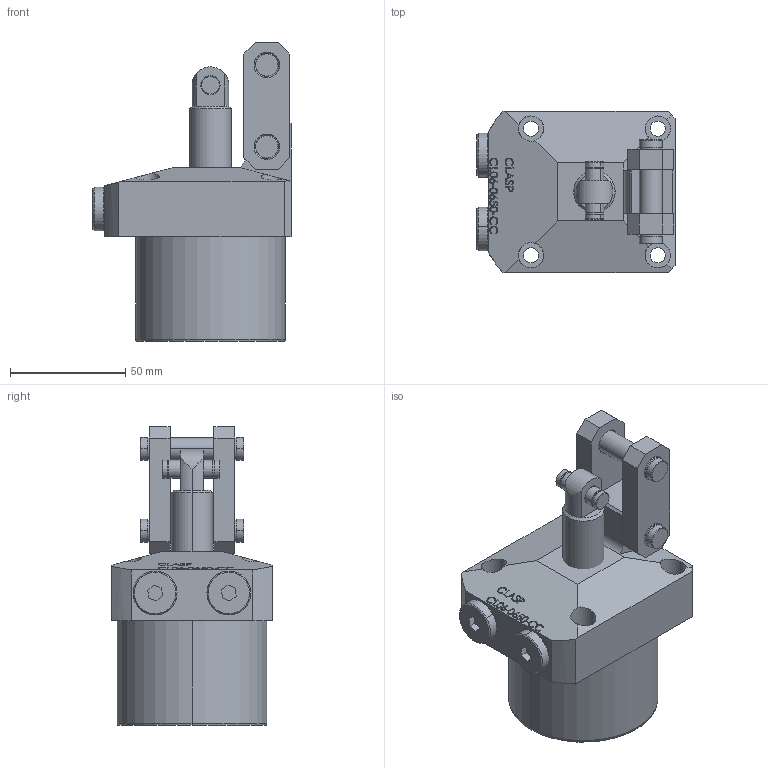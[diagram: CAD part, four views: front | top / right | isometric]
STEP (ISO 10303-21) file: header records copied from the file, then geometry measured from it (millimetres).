
FILE_DESCRIPTION (( 'STEP AP203' ), '1' );
FILE_NAME ('CL06-0650cc.STEP', '2022-07-05T17:30:51', ( '' ), ( '' ), 'SwSTEP 2.0', 'SolidWorks 2017', '' );
FILE_SCHEMA (( 'CONFIG_CONTROL_DESIGN' ));
Length unit declared in the file: millimetre
Products named in the file (7): CL06-0650 Part5 cc; CL06-0650 Part6 cc; CL06-0650 Part7 cc; CL06-0650cc; CL06-0650 Part1 cc; CL06-0650 Part3 cc; CL06-0650 Part2 cc
Assembly tree (9 placements, depth 2):
  CL06-0650cc
    CL06-0650 Part1 cc
    CL06-0650 Part3 cc
    CL06-0650 Part2 cc  x2
    CL06-0650 Part5 cc  x2
    CL06-0650 Part6 cc  x2
    CL06-0650 Part7 cc
Bounding box: 86 x 70 x 129.75 mm (x, y, z)
Volume: 332446.6 mm3; surface area: 51601.8 mm2
Topology: 9 solids, 9 shells, 426 faces, 1044 edges, 676 vertices
Faces by surface type: plane 177, bspline 110, cylinder 91, cone 48
Entity records: 18486 total; most frequent: CARTESIAN_POINT 9512, ORIENTED_EDGE 1836, DIRECTION 1376, EDGE_CURVE 918, VERTEX_POINT 600, VECTOR 500, LINE 500, AXIS2_PLACEMENT_3D 438
